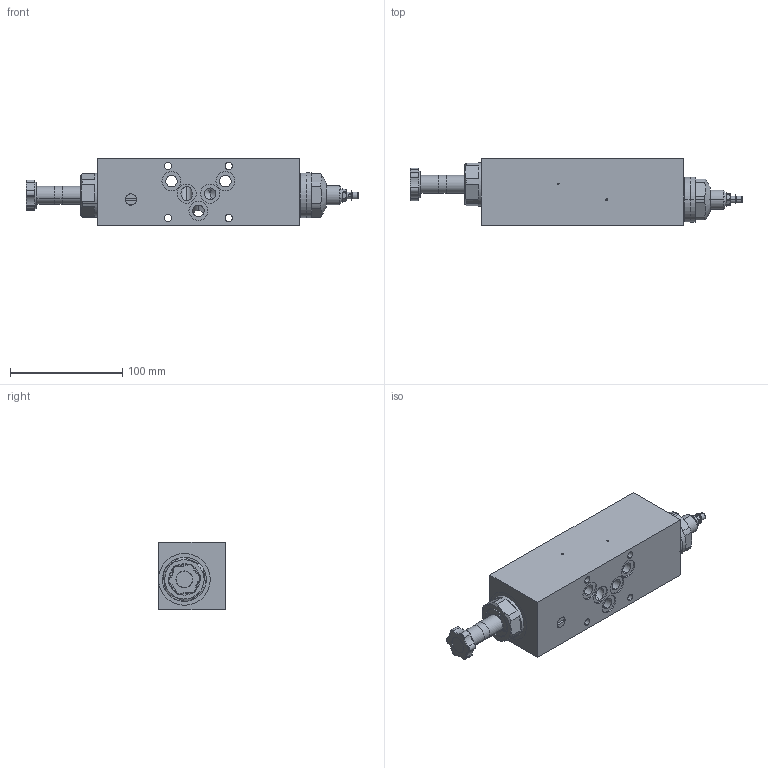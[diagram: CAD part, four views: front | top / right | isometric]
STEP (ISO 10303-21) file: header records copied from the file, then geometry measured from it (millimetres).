
FILE_DESCRIPTION (( 'STEP AP214' ), '1' );
FILE_NAME ('VQSSA10-B.STEP', '2017-04-06T10:57:23', ( '' ), ( '' ), 'SwSTEP 2.0', 'SolidWorks 2016', '' );
FILE_SCHEMA (( 'AUTOMOTIVE_DESIGN' ));
Length unit declared in the file: millimetre
Products named in the file (1): VQSSA10-B
Bounding box: 295.4 x 59.5 x 60 mm (x, y, z)
Volume: 666660.7 mm3; surface area: 77699.8 mm2
Topology: 5 solids, 5 shells, 369 faces, 883 edges, 537 vertices
Faces by surface type: cylinder 160, plane 102, cone 78, torus 29
Entity records: 15260 total; most frequent: CARTESIAN_POINT 2490, DIRECTION 1955, ORIENTED_EDGE 1722, EDGE_CURVE 861, AXIS2_PLACEMENT_3D 814, VERTEX_POINT 537, CIRCLE 444, EDGE_LOOP 424
